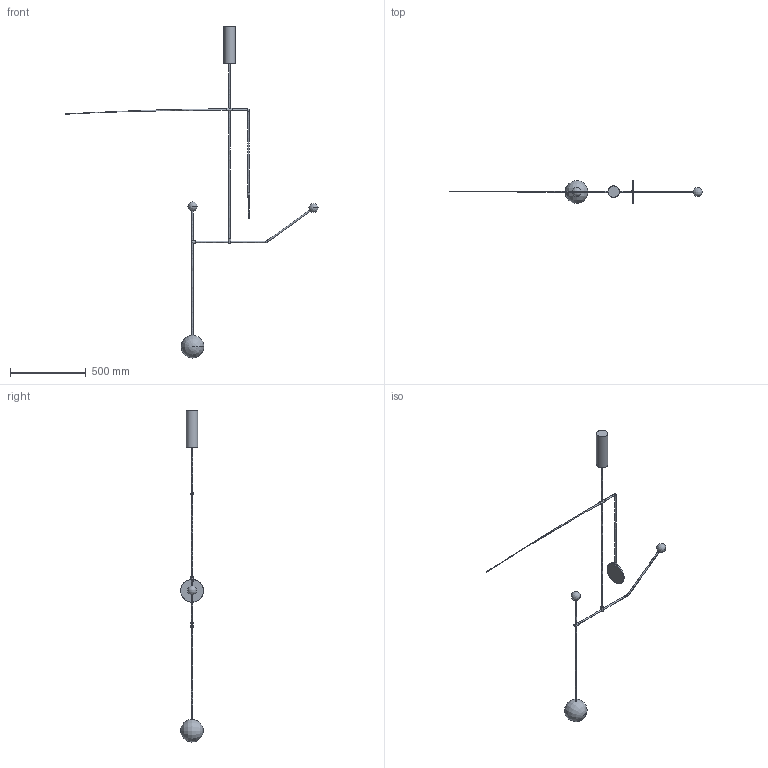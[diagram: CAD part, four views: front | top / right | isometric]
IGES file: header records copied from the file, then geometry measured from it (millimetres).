
Global section: file name: /Users/MA/Desktop/SIMPLIFIED 3D/MOBILE CHANDELIERS/MOBILE CHANDELIER 6/MA - Mobile Chandelier 6 - 240V.igs; preprocessor: Trout Lake IGES 012 May 24 2015; date: 150603.105026; units: millimetre
Bounding box: 1662.15 x 151.28 x 2189.06 mm (x, y, z)
Surface area: 333979.6 mm2 (no closed solid volume)
Topology: 0 solids, 0 shells, 36 faces, 684 edges, 647 vertices
Faces by surface type: bspline 36
